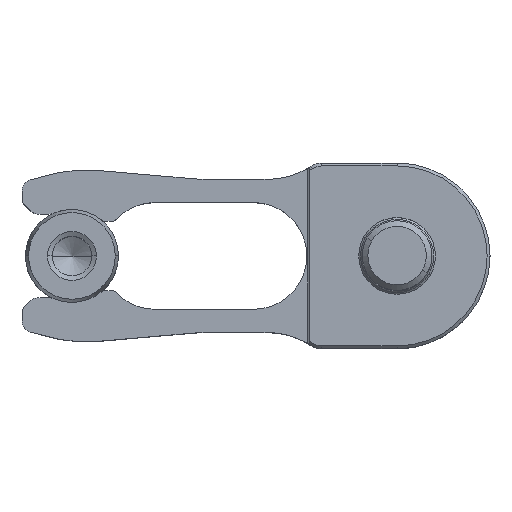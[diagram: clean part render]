
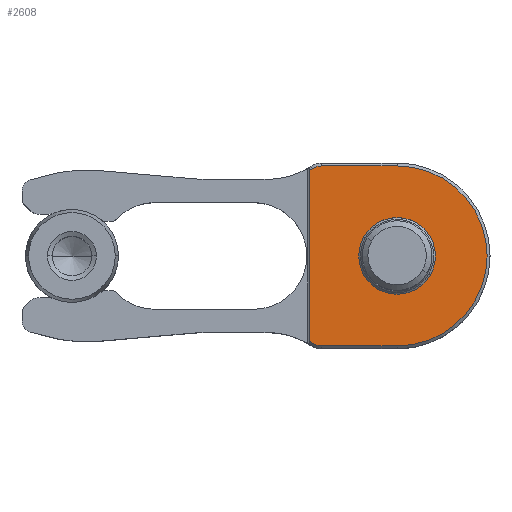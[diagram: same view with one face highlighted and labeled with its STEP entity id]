
A CAD part, top view. The second image highlights one B-rep face of the part: STEP entity #2608.
In plain terms, the highlighted planar face has unit normal (0, 0, 1).
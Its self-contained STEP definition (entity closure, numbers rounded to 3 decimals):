
#31 = VERTEX_POINT ( 'NONE', #2607 ) ;
#40 = EDGE_CURVE ( 'NONE', #3346, #31, #3312, .T. ) ;
#72 = VERTEX_POINT ( 'NONE', #861 ) ;
#208 = ORIENTED_EDGE ( 'NONE', *, *, #2211, .T. ) ;
#215 = LINE ( 'NONE', #665, #2359 ) ;
#217 = CARTESIAN_POINT ( 'NONE',  ( -15.05, 0., 7.85 ) ) ;
#358 = DIRECTION ( 'NONE',  ( 0., 0., -1. ) ) ;
#432 = DIRECTION ( 'NONE',  ( 1., 0., 0. ) ) ;
#452 = CARTESIAN_POINT ( 'NONE',  ( 0., -15.5, 7.85 ) ) ;
#467 = FACE_OUTER_BOUND ( 'NONE', #2338, .T. ) ;
#502 = FACE_BOUND ( 'NONE', #1314, .T. ) ;
#506 = DIRECTION ( 'NONE',  ( 0., 1., 0. ) ) ;
#577 = VERTEX_POINT ( 'NONE', #769 ) ;
#656 = DIRECTION ( 'NONE',  ( 0., 0., 1. ) ) ;
#665 = CARTESIAN_POINT ( 'NONE',  ( -13., 15.5, 7.85 ) ) ;
#731 = CARTESIAN_POINT ( 'NONE',  ( -22.226, 26.5, 7.85 ) ) ;
#761 = PLANE ( 'NONE',  #2055 ) ;
#769 = CARTESIAN_POINT ( 'NONE',  ( 0., -15.5, 7.85 ) ) ;
#770 = CARTESIAN_POINT ( 'NONE',  ( 0., 0., 7.85 ) ) ;
#861 = CARTESIAN_POINT ( 'NONE',  ( -6.6, 0., 7.85 ) ) ;
#898 = CARTESIAN_POINT ( 'NONE',  ( -14.556, -15.028, 7.85 ) ) ;
#902 = CARTESIAN_POINT ( 'NONE',  ( 6.6, 0., 7.85 ) ) ;
#918 = CARTESIAN_POINT ( 'NONE',  ( -13., 12.7, 7.85 ) ) ;
#927 = DIRECTION ( 'NONE',  ( -1., 0., 0. ) ) ;
#943 = DIRECTION ( 'NONE',  ( 1., 0., 0. ) ) ;
#976 = DIRECTION ( 'NONE',  ( 1., 0., 0. ) ) ;
#1075 = ORIENTED_EDGE ( 'NONE', *, *, #1177, .T. ) ;
#1090 = CIRCLE ( 'NONE', #1726, 13.8 ) ;
#1139 = CARTESIAN_POINT ( 'NONE',  ( -15.05, -14.713, 7.85 ) ) ;
#1171 = CIRCLE ( 'NONE', #1649, 15.5 ) ;
#1177 = EDGE_CURVE ( 'NONE', #1901, #3346, #1090, .T. ) ;
#1188 = AXIS2_PLACEMENT_3D ( 'NONE', #1651, #358, #1377 ) ;
#1274 = ORIENTED_EDGE ( 'NONE', *, *, #2427, .T. ) ;
#1294 = EDGE_CURVE ( 'NONE', #72, #1991, #3007, .T. ) ;
#1314 = EDGE_LOOP ( 'NONE', ( #2983, #1477 ) ) ;
#1366 = AXIS2_PLACEMENT_3D ( 'NONE', #3164, #1921, #1399 ) ;
#1368 = LINE ( 'NONE', #217, #3068 ) ;
#1377 = DIRECTION ( 'NONE',  ( -1., 0., 0. ) ) ;
#1396 = CARTESIAN_POINT ( 'NONE',  ( -15.05, 14.713, 7.85 ) ) ;
#1399 = DIRECTION ( 'NONE',  ( 1., 0., 0. ) ) ;
#1467 = ORIENTED_EDGE ( 'NONE', *, *, #2664, .T. ) ;
#1477 = ORIENTED_EDGE ( 'NONE', *, *, #2029, .T. ) ;
#1511 = DIRECTION ( 'NONE',  ( 1., 0., 0. ) ) ;
#1649 = AXIS2_PLACEMENT_3D ( 'NONE', #2478, #2512, #976 ) ;
#1651 = CARTESIAN_POINT ( 'NONE',  ( 0., 0., 7.85 ) ) ;
#1662 = ORIENTED_EDGE ( 'NONE', *, *, #40, .T. ) ;
#1726 = AXIS2_PLACEMENT_3D ( 'NONE', #2677, #1871, #1885 ) ;
#1742 = ORIENTED_EDGE ( 'NONE', *, *, #2488, .T. ) ;
#1871 = DIRECTION ( 'NONE',  ( 0., 0., -1. ) ) ;
#1885 = DIRECTION ( 'NONE',  ( 1., 0., 0. ) ) ;
#1889 = CIRCLE ( 'NONE', #1188, 6.6 ) ;
#1890 = AXIS2_PLACEMENT_3D ( 'NONE', #731, #3034, #1511 ) ;
#1901 = VERTEX_POINT ( 'NONE', #1139 ) ;
#1908 = VERTEX_POINT ( 'NONE', #1396 ) ;
#1921 = DIRECTION ( 'NONE',  ( 0., 0., 1. ) ) ;
#1991 = VERTEX_POINT ( 'NONE', #902 ) ;
#2029 = EDGE_CURVE ( 'NONE', #1991, #72, #1889, .T. ) ;
#2048 = DIRECTION ( 'NONE',  ( 0., 0., 1. ) ) ;
#2049 = CIRCLE ( 'NONE', #2836, 2.8 ) ;
#2055 = AXIS2_PLACEMENT_3D ( 'NONE', #770, #2048, #2543 ) ;
#2181 = CARTESIAN_POINT ( 'NONE',  ( 0., 0., 7.85 ) ) ;
#2211 = EDGE_CURVE ( 'NONE', #3176, #3329, #2049, .T. ) ;
#2338 = EDGE_LOOP ( 'NONE', ( #3146, #1075, #1662, #1274, #1742, #2698, #208, #1467 ) ) ;
#2359 = VECTOR ( 'NONE', #927, 1000. ) ;
#2362 = EDGE_CURVE ( 'NONE', #3054, #3176, #215, .T. ) ;
#2427 = EDGE_CURVE ( 'NONE', #31, #577, #2559, .T. ) ;
#2450 = DIRECTION ( 'NONE',  ( 0., 0., -1. ) ) ;
#2478 = CARTESIAN_POINT ( 'NONE',  ( 0., 0., 7.85 ) ) ;
#2488 = EDGE_CURVE ( 'NONE', #577, #3054, #1171, .T. ) ;
#2512 = DIRECTION ( 'NONE',  ( 0., 0., 1. ) ) ;
#2543 = DIRECTION ( 'NONE',  ( 1., 0., 0. ) ) ;
#2559 = LINE ( 'NONE', #452, #3201 ) ;
#2607 = CARTESIAN_POINT ( 'NONE',  ( -13., -15.5, 7.85 ) ) ;
#2608 = ADVANCED_FACE ( 'NONE', ( #467, #502 ), #761, .T. ) ;
#2648 = EDGE_CURVE ( 'NONE', #1901, #1908, #1368, .T. ) ;
#2664 = EDGE_CURVE ( 'NONE', #3329, #1908, #2911, .T. ) ;
#2677 = CARTESIAN_POINT ( 'NONE',  ( -22.226, -26.5, 7.85 ) ) ;
#2698 = ORIENTED_EDGE ( 'NONE', *, *, #2362, .T. ) ;
#2705 = CARTESIAN_POINT ( 'NONE',  ( -14.556, 15.028, 7.85 ) ) ;
#2836 = AXIS2_PLACEMENT_3D ( 'NONE', #918, #656, #943 ) ;
#2850 = CARTESIAN_POINT ( 'NONE',  ( 0., 15.5, 7.85 ) ) ;
#2911 = CIRCLE ( 'NONE', #1890, 13.8 ) ;
#2930 = DIRECTION ( 'NONE',  ( -1., 0., 0. ) ) ;
#2983 = ORIENTED_EDGE ( 'NONE', *, *, #1294, .T. ) ;
#3007 = CIRCLE ( 'NONE', #3338, 6.6 ) ;
#3034 = DIRECTION ( 'NONE',  ( 0., 0., -1. ) ) ;
#3054 = VERTEX_POINT ( 'NONE', #2850 ) ;
#3068 = VECTOR ( 'NONE', #506, 1000. ) ;
#3146 = ORIENTED_EDGE ( 'NONE', *, *, #2648, .F. ) ;
#3162 = CARTESIAN_POINT ( 'NONE',  ( -13., 15.5, 7.85 ) ) ;
#3164 = CARTESIAN_POINT ( 'NONE',  ( -13., -12.7, 7.85 ) ) ;
#3176 = VERTEX_POINT ( 'NONE', #3162 ) ;
#3201 = VECTOR ( 'NONE', #432, 1000. ) ;
#3312 = CIRCLE ( 'NONE', #1366, 2.8 ) ;
#3329 = VERTEX_POINT ( 'NONE', #2705 ) ;
#3338 = AXIS2_PLACEMENT_3D ( 'NONE', #2181, #2450, #2930 ) ;
#3346 = VERTEX_POINT ( 'NONE', #898 ) ;
